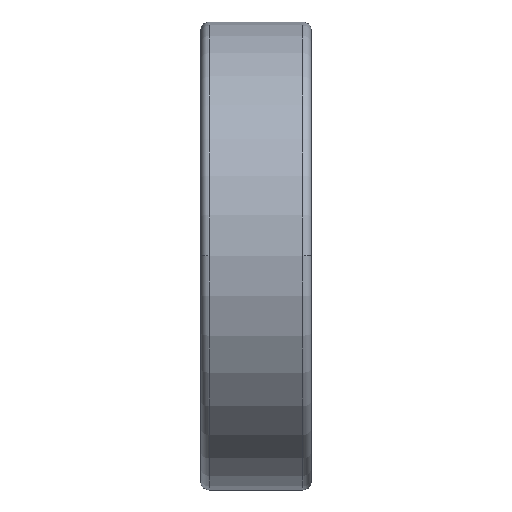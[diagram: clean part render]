
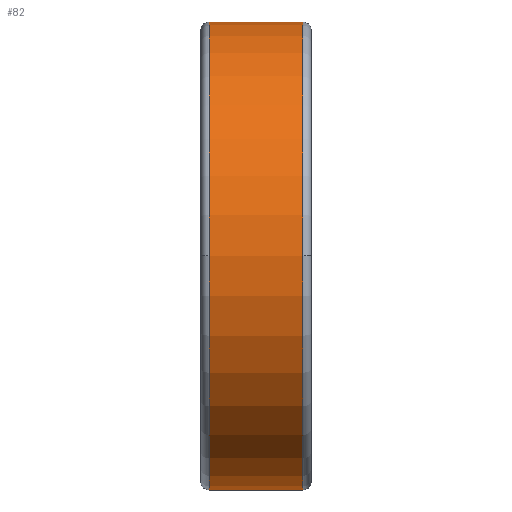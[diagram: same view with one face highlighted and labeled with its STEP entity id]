
A CAD part, top view. The second image highlights one B-rep face of the part: STEP entity #82.
In plain terms, the highlighted cylindrical face has radius 27.5 mm (diameter 55 mm), a partial arc.
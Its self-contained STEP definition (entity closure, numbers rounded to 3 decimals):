
#82=ADVANCED_FACE('',(#205),#206,.T.);
#205=FACE_OUTER_BOUND('',#467,.T.);
#206=CYLINDRICAL_SURFACE('',#468,27.5);
#467=EDGE_LOOP('',(#753,#754,#755,#756,#757,#758));
#468=AXIS2_PLACEMENT_3D('',#759,#760,#761);
#753=ORIENTED_EDGE('',*,*,#1621,.F.);
#754=ORIENTED_EDGE('',*,*,#1622,.T.);
#755=ORIENTED_EDGE('',*,*,#1623,.T.);
#756=ORIENTED_EDGE('',*,*,#1624,.F.);
#757=ORIENTED_EDGE('',*,*,#1625,.F.);
#758=ORIENTED_EDGE('',*,*,#1617,.F.);
#759=CARTESIAN_POINT('',(6.5,0.0,0.0));
#760=DIRECTION('',(1.0,0.0,0.0));
#761=DIRECTION('',(0.0,1.0,0.0));
#1617=EDGE_CURVE('',#1892,#1894,#1895,.T.);
#1621=EDGE_CURVE('',#1901,#1892,#1902,.T.);
#1622=EDGE_CURVE('',#1901,#1903,#1904,.T.);
#1623=EDGE_CURVE('',#1903,#1905,#1906,.T.);
#1624=EDGE_CURVE('',#1907,#1905,#1908,.T.);
#1625=EDGE_CURVE('',#1894,#1907,#1909,.T.);
#1892=VERTEX_POINT('',#2330);
#1894=VERTEX_POINT('',#2332);
#1895=CIRCLE('',#2333,27.5);
#1901=VERTEX_POINT('',#2339);
#1902=LINE('',#2340,#2341);
#1903=VERTEX_POINT('',#2342);
#1904=CIRCLE('',#2343,27.5);
#1905=VERTEX_POINT('',#2344);
#1906=CIRCLE('',#2345,27.5);
#1907=VERTEX_POINT('',#2346);
#1908=LINE('',#2347,#2348);
#1909=CIRCLE('',#2349,27.5);
#2330=CARTESIAN_POINT('',(12.0,27.5,0.0));
#2332=CARTESIAN_POINT('',(12.0,0.,27.5));
#2333=AXIS2_PLACEMENT_3D('',#2833,#2834,#2835);
#2339=CARTESIAN_POINT('',(1.0,27.5,0.0));
#2340=CARTESIAN_POINT('',(6.5,27.5,0.));
#2341=VECTOR('',#2845,1.0);
#2342=CARTESIAN_POINT('',(1.0,0.,27.5));
#2343=AXIS2_PLACEMENT_3D('',#2846,#2847,#2848);
#2344=CARTESIAN_POINT('',(1.0,-27.5,0.));
#2345=AXIS2_PLACEMENT_3D('',#2849,#2850,#2851);
#2346=CARTESIAN_POINT('',(12.0,-27.5,0.));
#2347=CARTESIAN_POINT('',(6.5,-27.5,0.));
#2348=VECTOR('',#2852,1.0);
#2349=AXIS2_PLACEMENT_3D('',#2853,#2854,#2855);
#2833=CARTESIAN_POINT('',(12.0,0.0,0.0));
#2834=DIRECTION('',(1.0,0.0,0.0));
#2835=DIRECTION('',(0.0,1.0,0.0));
#2845=DIRECTION('',(1.0,0.0,0.0));
#2846=CARTESIAN_POINT('',(1.0,0.0,0.0));
#2847=DIRECTION('',(1.0,0.0,0.0));
#2848=DIRECTION('',(0.0,1.0,0.0));
#2849=CARTESIAN_POINT('',(1.0,0.0,0.0));
#2850=DIRECTION('',(1.0,0.0,0.0));
#2851=DIRECTION('',(0.0,1.0,0.0));
#2852=DIRECTION('',(-1.0,-0.0,-0.0));
#2853=CARTESIAN_POINT('',(12.0,0.0,0.0));
#2854=DIRECTION('',(1.0,0.0,0.0));
#2855=DIRECTION('',(0.0,1.0,0.0));
